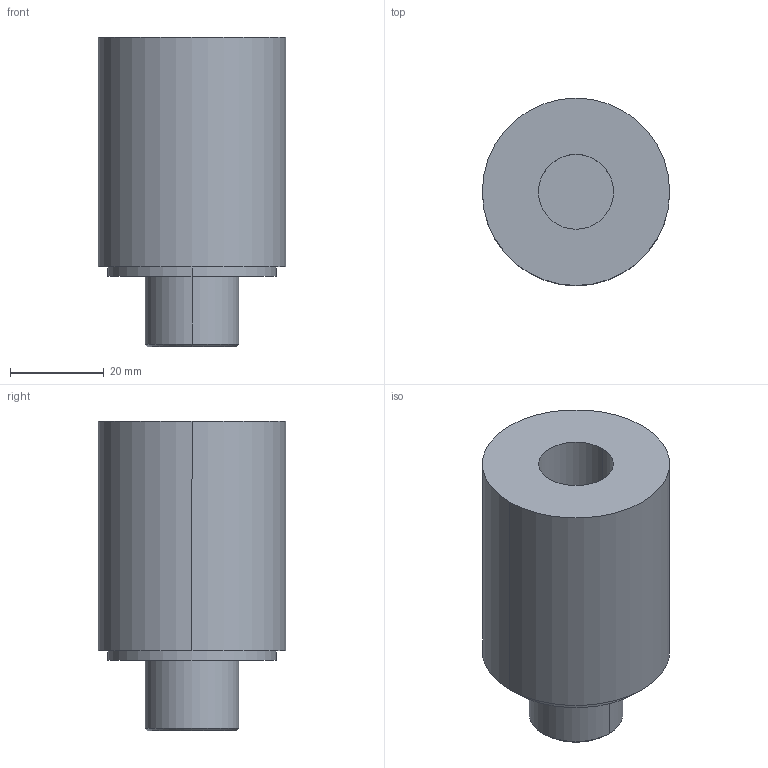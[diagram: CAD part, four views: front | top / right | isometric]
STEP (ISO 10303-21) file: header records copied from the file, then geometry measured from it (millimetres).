
FILE_DESCRIPTION((''),'2;1');
FILE_NAME('SC60','2017-04-06T',('Owner'),(''),'PRO/ENGINEER BY PARAMETRIC TECHNOLOGY CORPORATION, 2009440','PRO/ENGINEER BY PARAMETRIC TECHNOLOGY CORPORATION, 2009440','');
FILE_SCHEMA(('CONFIG_CONTROL_DESIGN'));
Length unit declared in the file: millimetre
Products named in the file (1): SC60
Bounding box: 40 x 40 x 66 mm (x, y, z)
Volume: 63289.1 mm3; surface area: 11077.4 mm2
Topology: 1 solids, 1 shells, 15 faces, 28 edges, 18 vertices
Faces by surface type: cylinder 8, plane 5, cone 2
Entity records: 422 total; most frequent: DIRECTION 76, CARTESIAN_POINT 61, ORIENTED_EDGE 56, AXIS2_PLACEMENT_3D 33, EDGE_CURVE 28, VERTEX_POINT 18, EDGE_LOOP 18, CIRCLE 18
